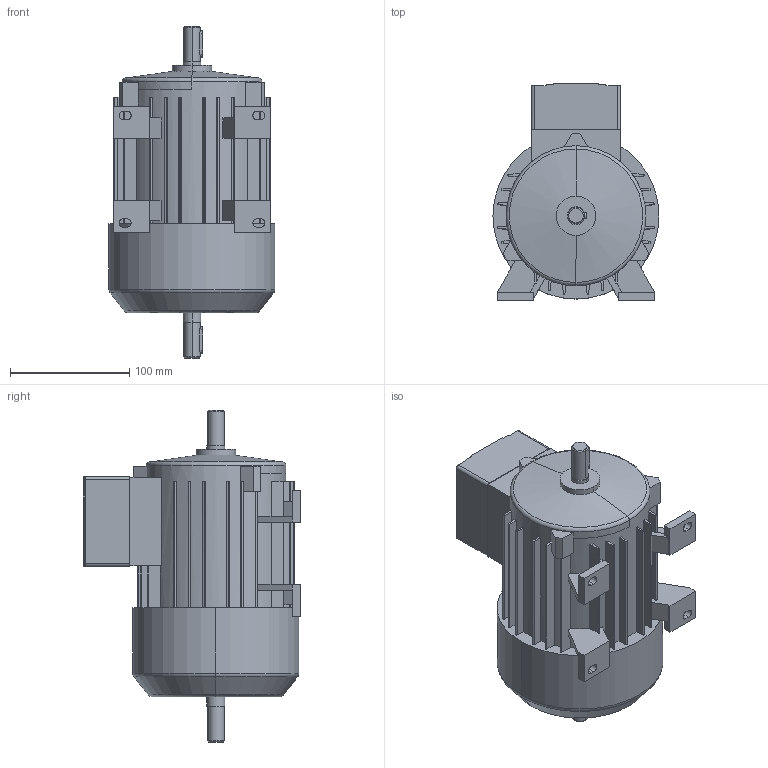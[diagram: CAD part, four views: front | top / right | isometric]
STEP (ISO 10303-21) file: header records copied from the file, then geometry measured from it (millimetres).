
FILE_DESCRIPTION((''),'2;1');
FILE_NAME('1LA7070-2AA10-Z-K16_PRT','2002-04-12T',('martin könig'),(''),'PRO/ENGINEER BY PARAMETRIC TECHNOLOGY CORPORATION, 2002030','PRO/ENGINEER BY PARAMETRIC TECHNOLOGY CORPORATION, 2002030','');
FILE_SCHEMA(('CONFIG_CONTROL_DESIGN'));
Length unit declared in the file: millimetre
Products named in the file (1): 1LA7070-2AA10-Z-K16_PRT
Bounding box: 139 x 182 x 278 mm (x, y, z)
Volume: 2819561.9 mm3; surface area: 174119.7 mm2
Topology: 1 solids, 1 shells, 275 faces, 765 edges, 501 vertices
Faces by surface type: plane 185, cylinder 76, cone 8, torus 6
Entity records: 8935 total; most frequent: CARTESIAN_POINT 1615, DIRECTION 1543, ORIENTED_EDGE 1530, EDGE_CURVE 765, VECTOR 529, LINE 529, AXIS2_PLACEMENT_3D 507, VERTEX_POINT 501
